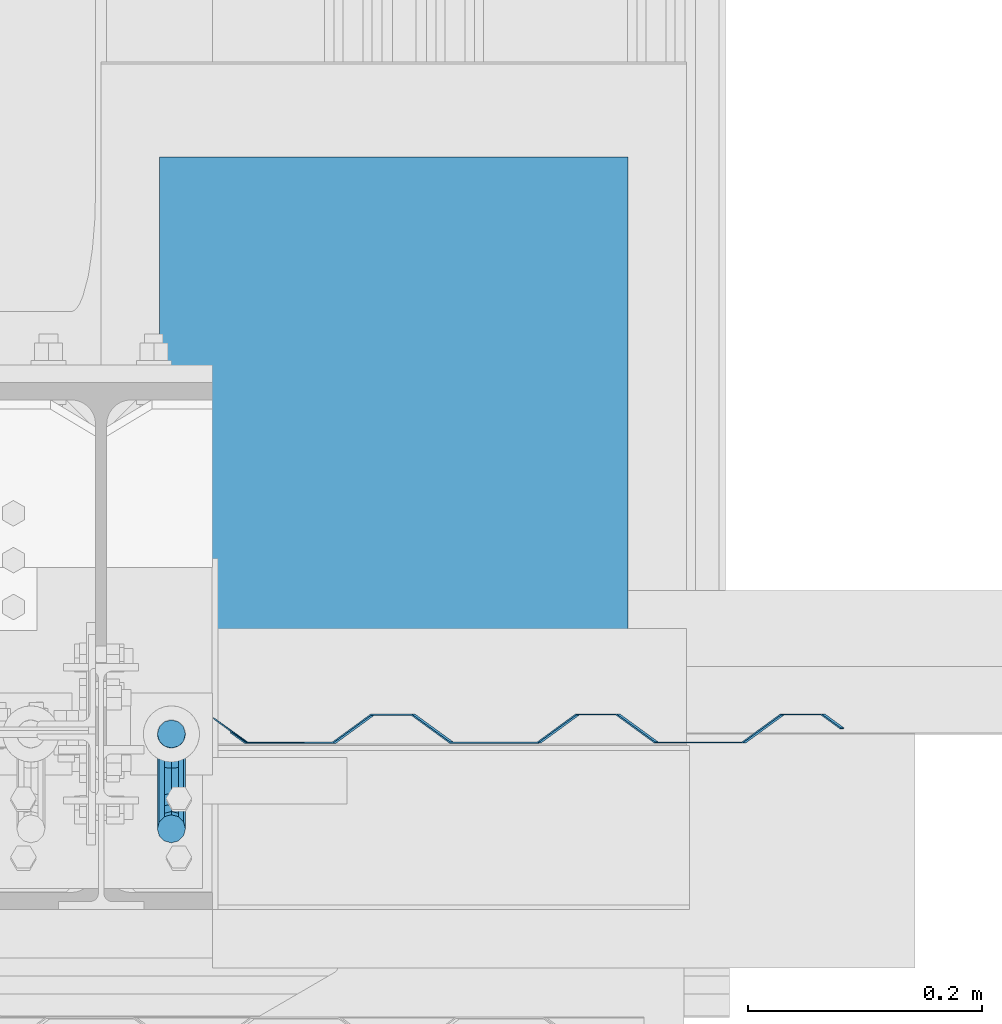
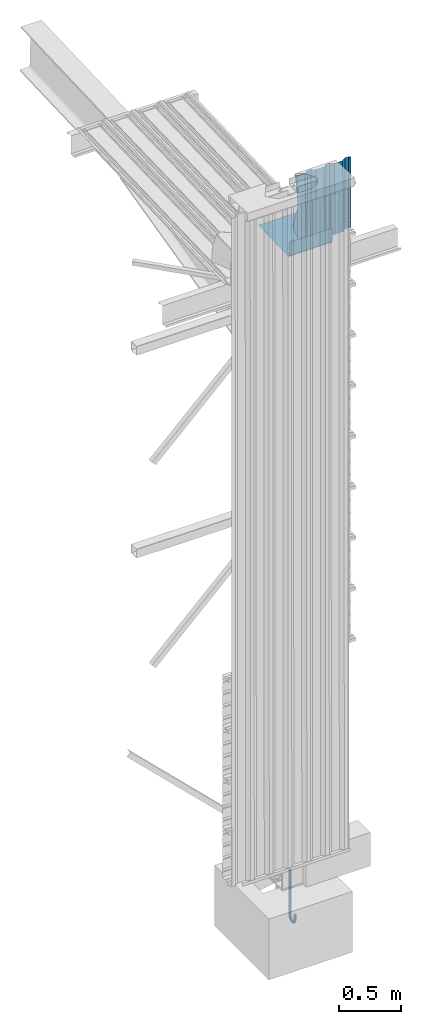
# One storey, part 7 of 21: 3 beams.
"""IFC2X3 building model written with IfcOpenShell, lengths in millimetres."""

from ifc_helpers import new_model, si_unit, frame, origin_with_axes, place, context, project, spatial, faceted_brep, material, type_object, element, save


model = new_model("IFC2X3")

# Units and contexts
model_context_1 = context("Model", 3, precision=1e-05, world=origin_with_axes(), identifier="Body")
model_context_2 = context("Model", 3, precision=1e-05, world=origin_with_axes())
ifc_project = project(units=[si_unit("LENGTHUNIT", "METRE", prefix="MILLI"), si_unit("AREAUNIT", "SQUARE_METRE"), si_unit("VOLUMEUNIT", "CUBIC_METRE"), si_unit("MASSUNIT", "GRAM", prefix="KILO"), si_unit("TIMEUNIT", "SECOND"), si_unit("PLANEANGLEUNIT", "RADIAN"), si_unit("SOLIDANGLEUNIT", "STERADIAN"), si_unit("THERMODYNAMICTEMPERATUREUNIT", "DEGREE_CELSIUS"), si_unit("LUMINOUSINTENSITYUNIT", "LUMEN")], contexts=[model_context_1, model_context_2])

# Site, building, storey
site_placement = place(None, origin_with_axes())
site = spatial("IfcSite", under=ifc_project, at=site_placement, Name="Undefined", CompositionType="ELEMENT")
building_placement = place(site_placement, origin_with_axes())
building = spatial("IfcBuilding", under=site, at=building_placement, Name="Undefined", CompositionType="ELEMENT")
storey_placement = place(building_placement, origin_with_axes())
storey = spatial("IfcBuildingStorey", under=building, at=storey_placement, Name="Undefined", CompositionType="ELEMENT")

# Beams
ifc_material = material(Name="STEEL/S235JR")
beam_type_1 = type_object("IfcBeamType", Name="1*400", PredefinedType="NOTDEFINED")
beam_1_placement = place(storey_placement, frame((250.00032, 417.63964, 5825.5289), z_axis=(1.0, 0.0, 0.0), x_axis=(-4.1191837e-16, -0.9995434, -0.030215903)))
element("IfcBeam", 1, at=beam_1_placement, inside=storey, type_object=beam_type_1, material=ifc_material, Name="etancheite", ObjectType="1*400", context=model_context_1, shape_type="Brep", body=[
    faceted_brep([(3.8295298e-08, -0.5, -200.0), (3.8254939e-08, -0.5, 200.0), (-3.829507e-08, 0.5, 200.0), (-3.8254711e-08, 0.5, -200.0), (482.98909, 0.50003697, 200.0), (482.98909, 0.50003697, -200.0), (482.89036, -0.49996303, 200.0), (482.89036, -0.49996303, -200.0), (486.40798, -0.18169364, 200.0), (486.40798, -0.18169364, -200.0), (486.12663, -1.1452786, 200.0), (486.12663, -1.1452786, -200.0), (489.65655, -1.4467505, 200.0), (489.65655, -1.4467505, -200.0), (489.21215, -2.3468403, 200.0), (489.21215, -2.3468403, -200.0), (492.63609, -3.2566959, 200.0), (492.63609, -3.2566959, -200.0), (492.04214, -4.0659413, 200.0), (492.04214, -4.0659413, -200.0), (495.25605, -5.5565342, 200.0), (495.25605, -5.5565342, -200.0), (494.5306, -6.2503467, 200.0), (494.5306, -6.2503467, -200.0), (497.43686, -8.2763864, 200.0), (497.43686, -8.2763864, -200.0), (496.60195, -8.8336863, 200.0), (496.60195, -8.8336863, -200.0), (499.11225, -11.333612, 200.0), (499.11225, -11.333612, -200.0), (498.19325, -11.737465, 200.0), (498.19325, -11.737465, -200.0), (500.23129, -14.635318, 200.0), (500.23129, -14.635318, -200.0), (499.25612, -14.873453, 200.0), (499.25612, -14.873453, -200.0), (500.76001, -18.081184, 200.0), (500.76001, -18.081184, -200.0), (499.75775, -18.14276, 200.0), (499.75775, -18.14276, -200.0), (496.89524, -148.92451, 200.0), (496.89524, -148.92451, -200.0), (495.89567, -148.89499, 200.0), (495.89567, -148.89499, -200.0)], [[[0, 1, 2, 3]], [[3, 2, 4, 5]], [[2, 1, 6, 4]], [[1, 0, 7, 6]], [[0, 3, 5, 7]], [[5, 4, 8, 9]], [[4, 6, 10, 8]], [[6, 7, 11, 10]], [[7, 5, 9, 11]], [[9, 8, 12, 13]], [[8, 10, 14, 12]], [[10, 11, 15, 14]], [[11, 9, 13, 15]], [[13, 12, 16, 17]], [[12, 14, 18, 16]], [[14, 15, 19, 18]], [[15, 13, 17, 19]], [[17, 16, 20, 21]], [[16, 18, 22, 20]], [[18, 19, 23, 22]], [[19, 17, 21, 23]], [[21, 20, 24, 25]], [[20, 22, 26, 24]], [[22, 23, 27, 26]], [[23, 21, 25, 27]], [[25, 24, 28, 29]], [[24, 26, 30, 28]], [[26, 27, 31, 30]], [[27, 25, 29, 31]], [[29, 28, 32, 33]], [[28, 30, 34, 32]], [[30, 31, 35, 34]], [[31, 29, 33, 35]], [[33, 32, 36, 37]], [[32, 34, 38, 36]], [[34, 35, 39, 38]], [[35, 33, 37, 39]], [[37, 36, 40, 41]], [[36, 38, 42, 40]], [[38, 39, 43, 42]], [[39, 37, 41, 43]], [[42, 43, 41, 40]]]),
])
beam_type_2 = type_object("IfcBeamType", Name="D24", PredefinedType="NOTDEFINED")
beam_2_placement = place(storey_placement, frame((60.0, -74.999999, -235.0), z_axis=(0.0, -1.0, 0.0), x_axis=(1.2908193e-13, -1.8000416e-13, -1.0)))
element("IfcBeam", 2, at=beam_2_placement, inside=storey, type_object=beam_type_2, material=ifc_material, Name="BARRE", ObjectType="D24", context=model_context_1, shape_type="Brep", body=[
    faceted_brep([(3.6095571e-12, -12.0, 7.2049033e-12), (1.6768809e-12, -10.392305, -6.0), (448.0, -10.392305, -6.0), (448.0, -12.0, -1.3180568e-10), (1.4210855e-13, -6.0, -10.392305), (448.0, -6.0, -10.392305), (-5.6843419e-13, -1.1297629e-12, -12.0), (448.0, 1.5937474e-11, -12.0), (-3.126388e-13, 6.0, -10.392305), (448.0, 6.0, -10.392305), (9.094947e-13, 10.392305, -6.0), (448.0, 10.392305, -6.0), (2.7000624e-12, 12.0, 7.2049033e-12), (448.0, 12.0, -1.3190515e-10), (4.6327386e-12, 10.392305, 6.0), (448.0, 10.392305, 6.0), (6.1675109e-12, 6.0, 10.392305), (448.0, 6.0, 10.392305), (6.8780537e-12, -1.1297629e-12, 12.0), (448.0, 1.5930368e-11, 12.0), (6.6222583e-12, -6.0, 10.392305), (448.0, -6.0, 10.392305), (5.4001248e-12, -10.392305, 6.0), (448.0, -10.392305, 6.0), (467.89954, 1.6179058e-11, -8.0417357), (467.2843, -6.0, -6.556419), (465.60344, -10.392305, -2.4984585), (463.30734, -12.0, 3.0448187), (461.01124, -10.392305, 8.5880959), (459.33037, -6.0, 12.646056), (458.71514, 1.6683543e-11, 14.131373), (459.33037, 6.0, 12.646056), (461.01124, 10.392305, 8.5880959), (463.30734, 12.0, 3.0448187), (465.60344, 10.392305, -2.4984585), (467.2843, 6.0, -6.556419), (483.63274, 6.0, 4.3672595), (484.76955, 1.679723e-11, 3.2304474), (480.52691, 10.392305, 7.4730881), (476.28427, 12.0, 11.715729), (472.04163, 10.392305, 15.958369), (468.9358, 6.0, 19.064198), (467.79899, 1.6683543e-11, 20.20101), (468.9358, -6.0, 19.064198), (472.04163, -10.392305, 15.958369), (476.28427, -12.0, 11.715729), (480.52691, -10.392305, 7.4730881), (483.63274, -6.0, 4.3672595), (494.55642, 6.0, 20.7157), (496.04174, 1.6974866e-11, 20.100462), (490.49846, 10.392305, 22.396562), (484.95518, 12.0, 24.692663), (479.4119, 10.392305, 26.988763), (475.35394, 6.0, 28.669626), (473.86863, 1.6441959e-11, 29.284864), (475.35394, -6.0, 28.669626), (479.4119, -10.392305, 26.988763), (484.95518, -12.0, 24.692663), (490.49846, -10.392305, 22.396562), (494.55642, -6.0, 20.7157), (498.3923, 6.0, 40.0), (500.0, 1.6562751e-11, 40.0), (494.0, 10.392305, 40.0), (488.0, 12.0, 40.0), (482.0, 10.392305, 40.0), (477.6077, 6.0, 40.0), (476.0, 1.5873525e-11, 40.0), (477.6077, -6.0, 40.0), (482.0, -10.392305, 40.0), (488.0, -12.0, 40.0), (494.0, -10.392305, 40.0), (498.3923, -6.0, 40.0), (494.0, -10.392305, 40.414497), (488.0, -12.0, 40.414497), (498.3923, -6.0, 40.414497), (500.0, 1.804068e-11, 40.414497), (498.3923, 6.0, 40.414497), (494.0, 10.392305, 40.414497), (488.0, 12.0, 40.414497), (482.0, 10.392305, 40.414497), (477.6077, 6.0, 40.414497), (476.0, 1.7060131e-11, 40.414497), (477.6077, -6.0, 40.414497), (482.0, -10.392305, 40.414497), (496.09339, 1.7820412e-11, 60.188864), (494.60648, -6.0, 59.577495), (490.54415, -10.392305, 57.907206), (484.99492, -12.0, 55.625548), (479.44568, -10.392305, 53.34389), (475.38336, -6.0, 51.673601), (473.89644, 1.5887736e-11, 51.062233), (475.38336, 6.0, 51.673601), (479.44568, 10.392305, 53.34389), (484.99492, 12.0, 55.625548), (490.54415, 10.392305, 57.907206), (494.60648, 6.0, 59.577495), (483.81784, 6.0, 75.861174), (484.96055, 1.6733281e-11, 76.99205), (480.69587, 10.392305, 72.771563), (476.4312, 12.0, 68.551076), (472.16652, 10.392305, 64.330589), (469.04455, 6.0, 61.240978), (467.90184, 1.5312196e-11, 60.110102), (469.04455, -6.0, 61.240978), (472.16652, -10.392305, 64.330589), (476.4312, -12.0, 68.551076), (480.69587, -10.392305, 72.771563), (483.81784, -6.0, 75.861174), (467.64742, 6.0, 86.818843), (468.27424, 1.5646151e-11, 88.299308), (465.9349, 10.392305, 82.774138), (463.59557, 12.0, 77.248967), (461.25623, 10.392305, 71.723797), (459.54372, 6.0, 67.679091), (458.9169, 1.4750867e-11, 66.198626), (459.54372, -6.0, 67.679091), (461.25623, -10.392305, 71.723797), (463.59557, -12.0, 77.248967), (465.9349, -10.392305, 82.774138), (467.64742, -6.0, 86.818843), (448.52489, 6.0, 90.804068), (448.54164, 1.4722445e-11, 92.411676), (448.47914, 10.392305, 86.412001), (448.41664, 12.0, 80.412327), (448.35415, 10.392305, 74.412652), (448.3084, 6.0, 70.020586), (448.29165, 1.4267698e-11, 68.412978), (448.3084, -6.0, 70.020586), (448.35415, -10.392305, 74.412652), (448.41664, -12.0, 80.412327), (448.47914, -10.392305, 86.412001), (448.52489, -6.0, 90.804068), (392.0625, -10.392305, 86.999675), (392.0, -12.0, 81.0), (392.10825, -6.0, 91.391741), (392.12499, 1.3642421e-11, 92.999349), (392.10825, 6.0, 91.391741), (392.0625, 10.392305, 86.999675), (392.0, 12.0, 81.0), (391.9375, 10.392305, 75.000325), (391.89175, 6.0, 70.608259), (391.87501, 1.3606893e-11, 69.000651), (391.89175, -6.0, 70.608259), (391.9375, -10.392305, 75.000325)], [[[0, 1, 2, 3]], [[1, 4, 5, 2]], [[4, 6, 7, 5]], [[6, 8, 9, 7]], [[8, 10, 11, 9]], [[10, 12, 13, 11]], [[12, 14, 15, 13]], [[14, 16, 17, 15]], [[16, 18, 19, 17]], [[18, 20, 21, 19]], [[20, 22, 23, 21]], [[22, 0, 3, 23]], [[22, 20, 18, 16, 14, 12, 10, 8, 6, 4, 1, 0]], [[5, 7, 24, 25]], [[2, 5, 25, 26]], [[3, 2, 26, 27]], [[23, 3, 27, 28]], [[21, 23, 28, 29]], [[19, 21, 29, 30]], [[17, 19, 30, 31]], [[15, 17, 31, 32]], [[13, 15, 32, 33]], [[11, 13, 33, 34]], [[9, 11, 34, 35]], [[7, 9, 35, 24]], [[35, 36, 37, 24]], [[34, 38, 36, 35]], [[33, 39, 38, 34]], [[32, 40, 39, 33]], [[31, 41, 40, 32]], [[30, 42, 41, 31]], [[29, 43, 42, 30]], [[28, 44, 43, 29]], [[27, 45, 44, 28]], [[26, 46, 45, 27]], [[25, 47, 46, 26]], [[24, 37, 47, 25]], [[36, 48, 49, 37]], [[38, 50, 48, 36]], [[39, 51, 50, 38]], [[40, 52, 51, 39]], [[41, 53, 52, 40]], [[42, 54, 53, 41]], [[43, 55, 54, 42]], [[44, 56, 55, 43]], [[45, 57, 56, 44]], [[46, 58, 57, 45]], [[47, 59, 58, 46]], [[37, 49, 59, 47]], [[48, 60, 61, 49]], [[50, 62, 60, 48]], [[51, 63, 62, 50]], [[52, 64, 63, 51]], [[53, 65, 64, 52]], [[54, 66, 65, 53]], [[55, 67, 66, 54]], [[56, 68, 67, 55]], [[57, 69, 68, 56]], [[58, 70, 69, 57]], [[59, 71, 70, 58]], [[49, 61, 71, 59]], [[69, 70, 72, 73]], [[70, 71, 74, 72]], [[71, 61, 75, 74]], [[61, 60, 76, 75]], [[60, 62, 77, 76]], [[62, 63, 78, 77]], [[63, 64, 79, 78]], [[64, 65, 80, 79]], [[65, 66, 81, 80]], [[66, 67, 82, 81]], [[67, 68, 83, 82]], [[68, 69, 73, 83]], [[74, 75, 84, 85]], [[72, 74, 85, 86]], [[73, 72, 86, 87]], [[83, 73, 87, 88]], [[82, 83, 88, 89]], [[81, 82, 89, 90]], [[80, 81, 90, 91]], [[79, 80, 91, 92]], [[78, 79, 92, 93]], [[77, 78, 93, 94]], [[76, 77, 94, 95]], [[75, 76, 95, 84]], [[95, 96, 97, 84]], [[94, 98, 96, 95]], [[93, 99, 98, 94]], [[92, 100, 99, 93]], [[91, 101, 100, 92]], [[90, 102, 101, 91]], [[89, 103, 102, 90]], [[88, 104, 103, 89]], [[87, 105, 104, 88]], [[86, 106, 105, 87]], [[85, 107, 106, 86]], [[84, 97, 107, 85]], [[96, 108, 109, 97]], [[98, 110, 108, 96]], [[99, 111, 110, 98]], [[100, 112, 111, 99]], [[101, 113, 112, 100]], [[102, 114, 113, 101]], [[103, 115, 114, 102]], [[104, 116, 115, 103]], [[105, 117, 116, 104]], [[106, 118, 117, 105]], [[107, 119, 118, 106]], [[97, 109, 119, 107]], [[108, 120, 121, 109]], [[110, 122, 120, 108]], [[111, 123, 122, 110]], [[112, 124, 123, 111]], [[113, 125, 124, 112]], [[114, 126, 125, 113]], [[115, 127, 126, 114]], [[116, 128, 127, 115]], [[117, 129, 128, 116]], [[118, 130, 129, 117]], [[119, 131, 130, 118]], [[109, 121, 131, 119]], [[129, 130, 132, 133]], [[130, 131, 134, 132]], [[131, 121, 135, 134]], [[121, 120, 136, 135]], [[120, 122, 137, 136]], [[122, 123, 138, 137]], [[123, 124, 139, 138]], [[124, 125, 140, 139]], [[125, 126, 141, 140]], [[126, 127, 142, 141]], [[127, 128, 143, 142]], [[128, 129, 133, 143]], [[134, 135, 136, 137, 138, 139, 140, 141, 142, 143, 133, 132]]]),
])
beam_type_3 = type_object("IfcBeamType", Name="ARVAL_FBV_HACIERBA_6.175.25_B_63", PredefinedType="NOTDEFINED")
beam_3_placement = place(storey_placement, frame((72.643988, -70.630633, 6588.9826), z_axis=(0.00057250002, -0.99999983, -0.0001078), x_axis=(0.0039704, 0.0001101, -0.99999211)))
element("IfcBeam", 3, at=beam_3_placement, inside=storey, type_object=beam_type_3, material=ifc_material, Name="contrebardage", ObjectType="ARVAL_FBV_HACIERBA_6.175.25_B_63", context=model_context_1, shape_type="Brep", body=[
    faceted_brep([(288.85176, 54.167721, 11.5), (288.85165, 54.167721, 12.5), (215.75205, 50.0, 12.5), (9.8559212e-08, 37.698997, 3.5483905), (6.1080755e-08, 37.698988, 2.1990821), (224.1711, 50.48, 11.5), (312.9834, 50.48, 11.5), (505.27057, 21.095623, -9.8834157), (505.27043, 21.095623, -8.5341134), (316.1243, 50.0, 12.5), (698.87522, 71.258773, 11.5), (698.87511, 71.258773, 12.5), (616.82591, 50.0, 12.5), (618.67859, 50.48, 11.5), (701.91915, 69.966216, 11.5), (701.91915, 69.96617, 12.5), (-6.0384574e-07, 157.98, -11.5), (6.5635406e-07, 125.0, 12.5), (701.91915, 125.0, 12.5), (701.91915, 157.98, -11.5), (-6.0384574e-07, 192.02, -11.5), (701.91915, 192.02, -11.5), (6.5635406e-07, 225.0, 12.5), (701.91915, 225.0, 12.5), (6.5635406e-07, 300.0, 12.5), (701.91915, 300.0, 12.5), (-6.0384574e-07, 332.98001, -11.5), (701.91915, 332.98001, -11.5), (-6.0384574e-07, 367.01999, -11.5), (701.91915, 367.01999, -11.5), (6.5635406e-07, 400.0, 12.5), (701.91915, 400.0, 12.5), (6.5635406e-07, 475.0, 12.5), (701.91915, 475.0, 12.5), (-6.0384574e-07, 507.98001, -11.5), (701.91915, 507.98001, -11.5), (-6.0384574e-07, 542.02002, -11.5), (701.91915, 542.02002, -11.5), (2.6254163e-08, 558.51001, 0.5), (701.91915, 558.51001, 0.5), (-1.9953163e-08, 559.15002, -0.38), (701.91915, 559.15002, -0.38), (-6.5635406e-07, 542.5, -12.5), (701.91915, 542.5, -12.5), (-6.5635406e-07, 507.5, -12.5), (701.91915, 507.5, -12.5), (6.0384574e-07, 474.51999, 11.5), (701.91915, 474.51999, 11.5), (6.0384574e-07, 400.48001, 11.5), (701.91915, 400.48001, 11.5), (-6.5635406e-07, 367.5, -12.5), (701.91915, 367.5, -12.5), (-6.5635406e-07, 332.5, -12.5), (701.91915, 332.5, -12.5), (6.0384574e-07, 299.51999, 11.5), (701.91915, 299.51999, 11.5), (6.0384574e-07, 225.48, 11.5), (701.91915, 225.48, 11.5), (-6.5635406e-07, 192.5, -12.5), (701.91915, 192.5, -12.5), (-6.5635406e-07, 157.5, -12.5), (701.91915, 157.5, -12.5), (6.0384574e-07, 124.52, 11.5), (701.91915, 124.52, 11.5), (6.0384574e-07, 50.48, 11.5), (6.5635406e-07, 50.0, 12.5)], [[[0, 1, 2, 3, 4, 5]], [[6, 7, 8, 9, 1, 0]], [[10, 11, 12, 8, 7, 13]], [[14, 15, 11, 10]], [[6, 13, 7]], [[16, 17, 18, 19]], [[20, 16, 19, 21]], [[22, 20, 21, 23]], [[24, 22, 23, 25]], [[26, 24, 25, 27]], [[28, 26, 27, 29]], [[30, 28, 29, 31]], [[32, 30, 31, 33]], [[34, 32, 33, 35]], [[36, 34, 35, 37]], [[38, 36, 37, 39]], [[40, 38, 39, 41]], [[42, 40, 41, 43]], [[44, 42, 43, 45]], [[46, 44, 45, 47]], [[48, 46, 47, 49]], [[50, 48, 49, 51]], [[52, 50, 51, 53]], [[54, 52, 53, 55]], [[56, 54, 55, 57]], [[58, 56, 57, 59]], [[60, 58, 59, 61]], [[62, 60, 61, 63]], [[64, 5, 4]], [[65, 17, 16, 20, 22, 24, 26, 28, 30, 32, 34, 36, 38, 40, 42, 44, 46, 48, 50, 52, 54, 56, 58, 60, 62, 64, 4, 3]], [[65, 3, 2]], [[9, 8, 12]], [[18, 17, 65, 2, 1, 9, 12, 11, 15]], [[63, 61, 59, 57, 55, 53, 51, 49, 47, 45, 43, 41, 39, 37, 35, 33, 31, 29, 27, 25, 23, 21, 19, 18, 15, 14]], [[6, 0, 5, 64, 62, 63, 14, 10, 13]]]),
])

save(model, "model.ifc")
